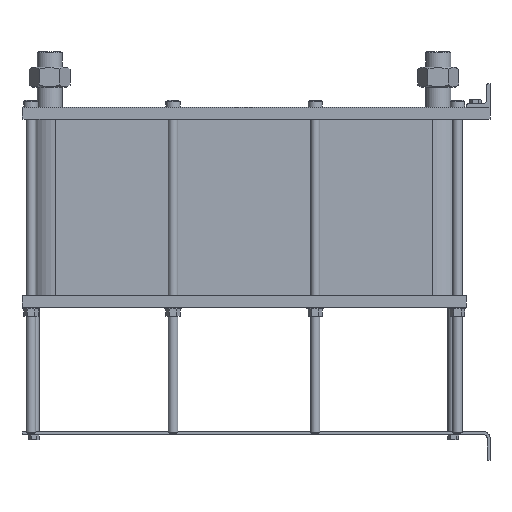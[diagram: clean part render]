
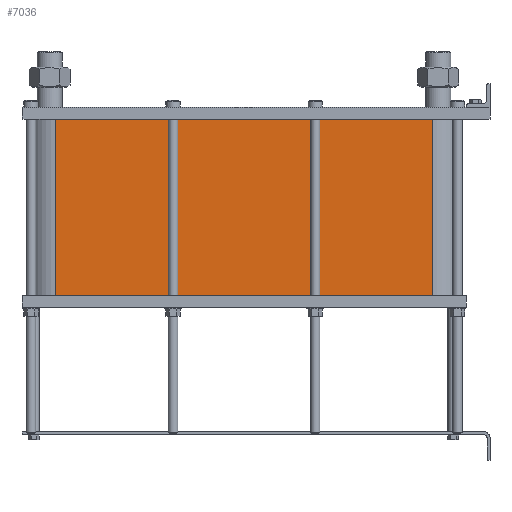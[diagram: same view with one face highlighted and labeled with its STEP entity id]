
A CAD part, left-side view. The second image highlights one B-rep face of the part: STEP entity #7036.
In plain terms, the highlighted planar face has unit normal (-1, 0, 0).
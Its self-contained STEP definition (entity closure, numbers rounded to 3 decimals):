
#999=LINE('',#15640,#1553);
#1031=LINE('',#15723,#1585);
#1032=LINE('',#15726,#1586);
#1033=LINE('',#15727,#1587);
#1553=VECTOR('',#9658,10.);
#1585=VECTOR('',#9736,10.);
#1586=VECTOR('',#9741,10.);
#1587=VECTOR('',#9742,10.);
#2117=FACE_OUTER_BOUND('',#2671,.T.);
#2671=EDGE_LOOP('',(#6246,#6247,#6248,#6249));
#3527=VERTEX_POINT('',#15634);
#3529=VERTEX_POINT('',#15638);
#3556=VERTEX_POINT('',#15720);
#3557=VERTEX_POINT('',#15722);
#4425=EDGE_CURVE('',#3529,#3527,#999,.T.);
#4466=EDGE_CURVE('',#3557,#3556,#1031,.T.);
#4468=EDGE_CURVE('',#3527,#3556,#1032,.T.);
#4469=EDGE_CURVE('',#3557,#3529,#1033,.T.);
#6246=ORIENTED_EDGE('',*,*,#4468,.F.);
#6247=ORIENTED_EDGE('',*,*,#4425,.F.);
#6248=ORIENTED_EDGE('',*,*,#4469,.F.);
#6249=ORIENTED_EDGE('',*,*,#4466,.T.);
#6608=PLANE('',#7812);
#7036=ADVANCED_FACE('',(#2117),#6608,.T.);
#7812=AXIS2_PLACEMENT_3D('',#15725,#9739,#9740);
#9658=DIRECTION('',(0.,0.,-1.));
#9736=DIRECTION('',(0.,0.,-1.));
#9739=DIRECTION('center_axis',(-1.,0.,0.));
#9740=DIRECTION('ref_axis',(0.,1.,0.));
#9741=DIRECTION('',(0.,1.,0.));
#9742=DIRECTION('',(0.,-1.,0.));
#15634=CARTESIAN_POINT('',(-72.,97.5,-297.6));
#15638=CARTESIAN_POINT('',(-72.,97.5,0.));
#15640=CARTESIAN_POINT('',(-72.,97.5,0.));
#15720=CARTESIAN_POINT('',(-72.,733.5,-297.6));
#15722=CARTESIAN_POINT('',(-72.,733.5,0.));
#15723=CARTESIAN_POINT('',(-72.,733.5,0.));
#15725=CARTESIAN_POINT('Origin',(-72.,97.5,0.));
#15726=CARTESIAN_POINT('',(-72.,256.5,-297.6));
#15727=CARTESIAN_POINT('',(-72.,733.5,0.));
